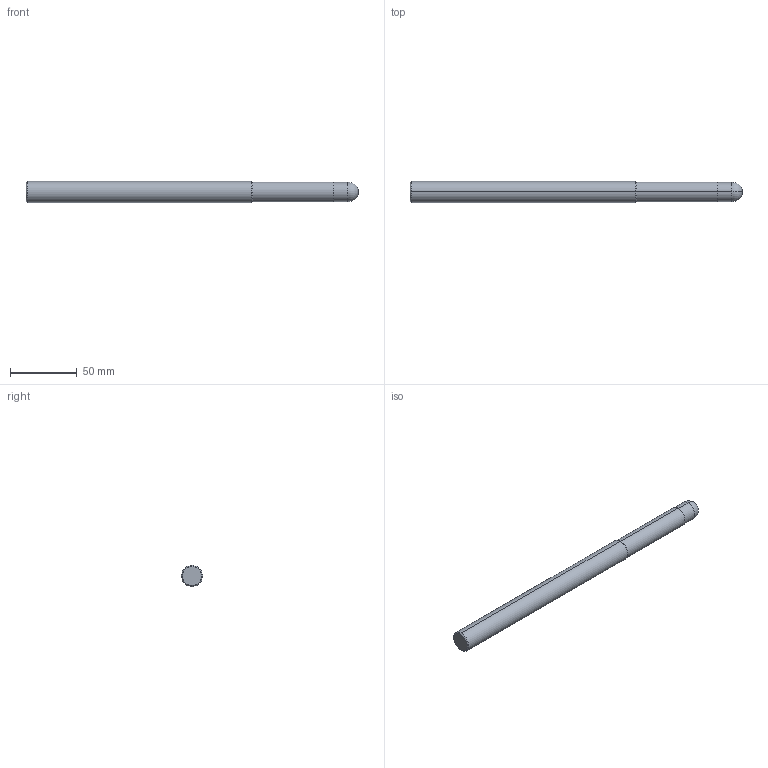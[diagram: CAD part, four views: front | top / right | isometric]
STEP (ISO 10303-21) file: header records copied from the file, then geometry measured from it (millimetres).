
FILE_DESCRIPTION (( 'STEP AP214' ), '1' );
FILE_NAME ('01-0234.STEP', '2021-02-10T00:02:27', ( 'USER' ), ( '' ), 'SwSTEP 2.0', 'SolidWorks 2018', '' );
FILE_SCHEMA (( 'AUTOMOTIVE_DESIGN' ));
Length unit declared in the file: millimetre
Products named in the file (2): 01-0234
Bounding box: 248.8 x 15.88 x 15.88 mm (x, y, z)
Volume: 46720 mm3; surface area: 12326.8 mm2
Topology: 1 solids, 1 shells, 16 faces, 30 edges, 16 vertices
Faces by surface type: cone 6, cylinder 6, torus 2, plane 2
Entity records: 445 total; most frequent: DIRECTION 84, CARTESIAN_POINT 64, ORIENTED_EDGE 60, AXIS2_PLACEMENT_3D 36, EDGE_CURVE 30, CIRCLE 18, EDGE_LOOP 16, ADVANCED_FACE 16
